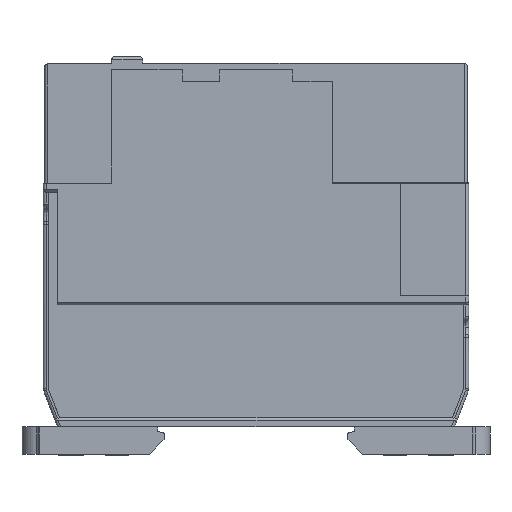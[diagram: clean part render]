
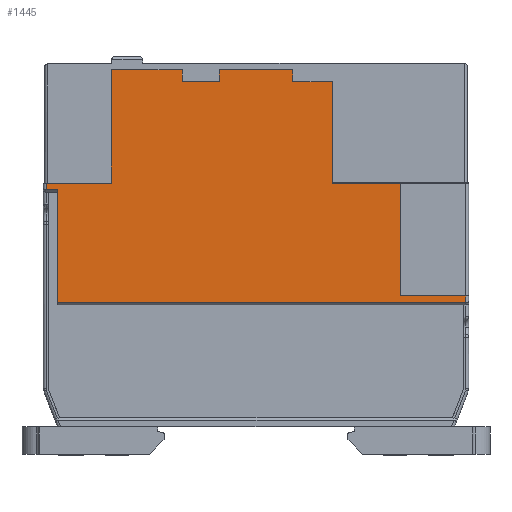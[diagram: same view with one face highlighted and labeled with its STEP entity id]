
A CAD part, left-side view. The second image highlights one B-rep face of the part: STEP entity #1445.
In plain terms, the highlighted planar face has unit normal (-1, 0, 0).
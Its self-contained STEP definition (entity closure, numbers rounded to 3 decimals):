
#56 = EDGE_CURVE ( 'NONE', #22951, #11700, #5071, .T. ) ;
#85 = DIRECTION ( 'NONE',  ( 0., 0., -1. ) ) ;
#113 = VECTOR ( 'NONE', #9327, 1000. ) ;
#401 = VECTOR ( 'NONE', #22823, 1000. ) ;
#402 = LINE ( 'NONE', #15942, #15443 ) ;
#1445 = ADVANCED_FACE ( 'NONE', ( #8542 ), #13829, .T. ) ;
#1950 = ORIENTED_EDGE ( 'NONE', *, *, #7926, .T. ) ;
#2082 = EDGE_CURVE ( 'NONE', #18101, #14804, #28912, .T. ) ;
#2115 = DIRECTION ( 'NONE',  ( 0., 0., 1. ) ) ;
#2477 = VERTEX_POINT ( 'NONE', #30095 ) ;
#2790 = EDGE_CURVE ( 'NONE', #28407, #23629, #5047, .T. ) ;
#2857 = EDGE_CURVE ( 'NONE', #11700, #3333, #17701, .T. ) ;
#2909 = LINE ( 'NONE', #13348, #21178 ) ;
#3029 = EDGE_CURVE ( 'NONE', #3333, #3715, #17323, .T. ) ;
#3263 = CARTESIAN_POINT ( 'NONE',  ( 0.038, 67.304, 47.83 ) ) ;
#3333 = VERTEX_POINT ( 'NONE', #10806 ) ;
#3715 = VERTEX_POINT ( 'NONE', #20648 ) ;
#3906 = EDGE_CURVE ( 'NONE', #3715, #7075, #23289, .T. ) ;
#4249 = LINE ( 'NONE', #4597, #29291 ) ;
#4274 = ORIENTED_EDGE ( 'NONE', *, *, #2082, .T. ) ;
#4343 = LINE ( 'NONE', #33220, #21351 ) ;
#4523 = LINE ( 'NONE', #25319, #113 ) ;
#4597 = CARTESIAN_POINT ( 'NONE',  ( 0.038, 41.6, 48.384 ) ) ;
#5011 = CARTESIAN_POINT ( 'NONE',  ( 0.038, 54.704, 47.83 ) ) ;
#5047 = LINE ( 'NONE', #17361, #401 ) ;
#5071 = LINE ( 'NONE', #18551, #27700 ) ;
#5417 = EDGE_CURVE ( 'NONE', #21766, #22951, #30445, .T. ) ;
#5540 = DIRECTION ( 'NONE',  ( 0., 0., -1. ) ) ;
#5590 = LINE ( 'NONE', #15847, #7487 ) ;
#6339 = LINE ( 'NONE', #16258, #27281 ) ;
#6614 = ORIENTED_EDGE ( 'NONE', *, *, #3029, .T. ) ;
#6633 = LINE ( 'NONE', #11759, #9315 ) ;
#6642 = DIRECTION ( 'NONE',  ( -1., 0., 0. ) ) ;
#6682 = EDGE_CURVE ( 'NONE', #32269, #24936, #402, .T. ) ;
#7021 = VERTEX_POINT ( 'NONE', #18628 ) ;
#7075 = VERTEX_POINT ( 'NONE', #8921 ) ;
#7152 = DIRECTION ( 'NONE',  ( 0., -1., 0. ) ) ;
#7203 = ORIENTED_EDGE ( 'NONE', *, *, #15435, .T. ) ;
#7218 = LINE ( 'NONE', #17123, #11205 ) ;
#7487 = VECTOR ( 'NONE', #18921, 1000. ) ;
#7657 = VECTOR ( 'NONE', #27494, 1000. ) ;
#7926 = EDGE_CURVE ( 'NONE', #14804, #21766, #6339, .T. ) ;
#8206 = CARTESIAN_POINT ( 'NONE',  ( 0.038, 4.304, 27.115 ) ) ;
#8542 = FACE_OUTER_BOUND ( 'NONE', #31837, .T. ) ;
#8799 = CARTESIAN_POINT ( 'NONE',  ( 0.038, 27.992, 66.427 ) ) ;
#8921 = CARTESIAN_POINT ( 'NONE',  ( 0.038, 54.704, 68.544 ) ) ;
#9315 = VECTOR ( 'NONE', #27250, 1000. ) ;
#9327 = DIRECTION ( 'NONE',  ( 0., 0., 1. ) ) ;
#9522 = VERTEX_POINT ( 'NONE', #10483 ) ;
#9543 = ORIENTED_EDGE ( 'NONE', *, *, #10670, .F. ) ;
#9633 = DIRECTION ( 'NONE',  ( 0., 0., 1. ) ) ;
#10278 = CARTESIAN_POINT ( 'NONE',  ( 0.038, 67.304, 48.384 ) ) ;
#10483 = CARTESIAN_POINT ( 'NONE',  ( 0.038, 4.304, 28.325 ) ) ;
#10670 = EDGE_CURVE ( 'NONE', #32269, #21753, #5590, .T. ) ;
#10712 = VECTOR ( 'NONE', #7152, 1000. ) ;
#10806 = CARTESIAN_POINT ( 'NONE',  ( 0.038, 48.102, 66.427 ) ) ;
#11205 = VECTOR ( 'NONE', #9633, 1000. ) ;
#11449 = VECTOR ( 'NONE', #32327, 1000. ) ;
#11700 = VERTEX_POINT ( 'NONE', #14956 ) ;
#11759 = CARTESIAN_POINT ( 'NONE',  ( 0.038, 10.856, 28.325 ) ) ;
#11785 = CARTESIAN_POINT ( 'NONE',  ( 0.038, 78.896, 48.384 ) ) ;
#11786 = CARTESIAN_POINT ( 'NONE',  ( 0.038, 78.896, 27.115 ) ) ;
#11900 = ORIENTED_EDGE ( 'NONE', *, *, #32789, .T. ) ;
#13257 = AXIS2_PLACEMENT_3D ( 'NONE', #11786, #6642, #16572 ) ;
#13271 = CARTESIAN_POINT ( 'NONE',  ( 0.038, 76.88, 27.115 ) ) ;
#13348 = CARTESIAN_POINT ( 'NONE',  ( 0.038, 41.6, 68.544 ) ) ;
#13829 = PLANE ( 'NONE',  #13257 ) ;
#14178 = VERTEX_POINT ( 'NONE', #8206 ) ;
#14804 = VERTEX_POINT ( 'NONE', #8799 ) ;
#14956 = CARTESIAN_POINT ( 'NONE',  ( 0.038, 48.102, 68.544 ) ) ;
#14969 = DIRECTION ( 'NONE',  ( 0., 1., 0. ) ) ;
#14997 = ORIENTED_EDGE ( 'NONE', *, *, #2857, .T. ) ;
#15304 = DIRECTION ( 'NONE',  ( 0., 1., 0. ) ) ;
#15418 = VECTOR ( 'NONE', #2115, 1000. ) ;
#15435 = EDGE_CURVE ( 'NONE', #24936, #28407, #23023, .T. ) ;
#15443 = VECTOR ( 'NONE', #85, 1000. ) ;
#15847 = CARTESIAN_POINT ( 'NONE',  ( 0.038, 67.228, 48.384 ) ) ;
#15942 = CARTESIAN_POINT ( 'NONE',  ( 0.038, 78.896, 47.83 ) ) ;
#16258 = CARTESIAN_POINT ( 'NONE',  ( 0.038, 41.6, 66.427 ) ) ;
#16402 = ORIENTED_EDGE ( 'NONE', *, *, #18188, .T. ) ;
#16572 = DIRECTION ( 'NONE',  ( 0., -1., 0. ) ) ;
#17123 = CARTESIAN_POINT ( 'NONE',  ( 0.038, 4.304, 47.83 ) ) ;
#17276 = VECTOR ( 'NONE', #28747, 1000. ) ;
#17323 = LINE ( 'NONE', #23122, #19777 ) ;
#17361 = CARTESIAN_POINT ( 'NONE',  ( 0.038, 76.88, 47.83 ) ) ;
#17701 = LINE ( 'NONE', #25364, #18100 ) ;
#17884 = VERTEX_POINT ( 'NONE', #30585 ) ;
#18100 = VECTOR ( 'NONE', #5540, 1000. ) ;
#18101 = VERTEX_POINT ( 'NONE', #19281 ) ;
#18188 = EDGE_CURVE ( 'NONE', #17884, #18101, #4249, .T. ) ;
#18250 = ORIENTED_EDGE ( 'NONE', *, *, #23168, .T. ) ;
#18551 = CARTESIAN_POINT ( 'NONE',  ( 0.038, 41.6, 68.544 ) ) ;
#18628 = CARTESIAN_POINT ( 'NONE',  ( 0.038, 67.304, 68.544 ) ) ;
#18921 = DIRECTION ( 'NONE',  ( 0., -1., 0. ) ) ;
#18979 = LINE ( 'NONE', #3263, #11449 ) ;
#19281 = CARTESIAN_POINT ( 'NONE',  ( 0.038, 27.992, 48.384 ) ) ;
#19777 = VECTOR ( 'NONE', #33559, 1000. ) ;
#19957 = CARTESIAN_POINT ( 'NONE',  ( 0.038, 41.6, 47.174 ) ) ;
#20648 = CARTESIAN_POINT ( 'NONE',  ( 0.038, 54.704, 66.427 ) ) ;
#21178 = VECTOR ( 'NONE', #23760, 1000. ) ;
#21351 = VECTOR ( 'NONE', #27367, 1000. ) ;
#21753 = VERTEX_POINT ( 'NONE', #10278 ) ;
#21766 = VERTEX_POINT ( 'NONE', #25911 ) ;
#22056 = DIRECTION ( 'NONE',  ( 0., 1., 0. ) ) ;
#22214 = CARTESIAN_POINT ( 'NONE',  ( 0.038, 78.896, 47.174 ) ) ;
#22823 = DIRECTION ( 'NONE',  ( 0., 0., -1. ) ) ;
#22951 = VERTEX_POINT ( 'NONE', #23337 ) ;
#23023 = LINE ( 'NONE', #19957, #10712 ) ;
#23122 = CARTESIAN_POINT ( 'NONE',  ( 0.038, 41.6, 66.427 ) ) ;
#23168 = EDGE_CURVE ( 'NONE', #7075, #7021, #2909, .T. ) ;
#23289 = LINE ( 'NONE', #5011, #15418 ) ;
#23337 = CARTESIAN_POINT ( 'NONE',  ( 0.038, 35.098, 68.544 ) ) ;
#23629 = VERTEX_POINT ( 'NONE', #13271 ) ;
#23760 = DIRECTION ( 'NONE',  ( 0., 1., 0. ) ) ;
#24348 = ORIENTED_EDGE ( 'NONE', *, *, #5417, .T. ) ;
#24760 = CARTESIAN_POINT ( 'NONE',  ( 0.038, 76.88, 47.174 ) ) ;
#24936 = VERTEX_POINT ( 'NONE', #22214 ) ;
#25319 = CARTESIAN_POINT ( 'NONE',  ( 0.038, 15.896, 47.83 ) ) ;
#25364 = CARTESIAN_POINT ( 'NONE',  ( 0.038, 48.102, 47.83 ) ) ;
#25570 = EDGE_CURVE ( 'NONE', #7021, #21753, #18979, .T. ) ;
#25793 = ORIENTED_EDGE ( 'NONE', *, *, #28184, .T. ) ;
#25911 = CARTESIAN_POINT ( 'NONE',  ( 0.038, 35.098, 66.427 ) ) ;
#26267 = ORIENTED_EDGE ( 'NONE', *, *, #6682, .T. ) ;
#26806 = EDGE_CURVE ( 'NONE', #2477, #9522, #6633, .T. ) ;
#27250 = DIRECTION ( 'NONE',  ( 0., -1., 0. ) ) ;
#27251 = ORIENTED_EDGE ( 'NONE', *, *, #25570, .T. ) ;
#27281 = VECTOR ( 'NONE', #22056, 1000. ) ;
#27367 = DIRECTION ( 'NONE',  ( 0., -1., 0. ) ) ;
#27412 = ORIENTED_EDGE ( 'NONE', *, *, #32801, .T. ) ;
#27494 = DIRECTION ( 'NONE',  ( 0., 0., 1. ) ) ;
#27515 = ORIENTED_EDGE ( 'NONE', *, *, #3906, .T. ) ;
#27700 = VECTOR ( 'NONE', #15304, 1000. ) ;
#28184 = EDGE_CURVE ( 'NONE', #14178, #9522, #7218, .T. ) ;
#28407 = VERTEX_POINT ( 'NONE', #24760 ) ;
#28747 = DIRECTION ( 'NONE',  ( 0., 0., 1. ) ) ;
#28912 = LINE ( 'NONE', #33757, #17276 ) ;
#29291 = VECTOR ( 'NONE', #14969, 1000. ) ;
#29849 = ORIENTED_EDGE ( 'NONE', *, *, #56, .T. ) ;
#30095 = CARTESIAN_POINT ( 'NONE',  ( 0.038, 15.896, 28.325 ) ) ;
#30445 = LINE ( 'NONE', #32703, #7657 ) ;
#30496 = ORIENTED_EDGE ( 'NONE', *, *, #2790, .T. ) ;
#30585 = CARTESIAN_POINT ( 'NONE',  ( 0.038, 15.896, 48.384 ) ) ;
#31837 = EDGE_LOOP ( 'NONE', ( #32412, #11900, #16402, #4274, #1950, #24348, #29849, #14997, #6614, #27515, #18250, #27251, #9543, #26267, #7203, #30496, #27412, #25793 ) ) ;
#32269 = VERTEX_POINT ( 'NONE', #11785 ) ;
#32327 = DIRECTION ( 'NONE',  ( 0., 0., -1. ) ) ;
#32412 = ORIENTED_EDGE ( 'NONE', *, *, #26806, .F. ) ;
#32703 = CARTESIAN_POINT ( 'NONE',  ( 0.038, 35.098, 47.83 ) ) ;
#32789 = EDGE_CURVE ( 'NONE', #2477, #17884, #4523, .T. ) ;
#32801 = EDGE_CURVE ( 'NONE', #23629, #14178, #4343, .T. ) ;
#33220 = CARTESIAN_POINT ( 'NONE',  ( 0.038, 41.6, 27.115 ) ) ;
#33559 = DIRECTION ( 'NONE',  ( 0., 1., 0. ) ) ;
#33757 = CARTESIAN_POINT ( 'NONE',  ( 0.038, 27.992, 47.83 ) ) ;
